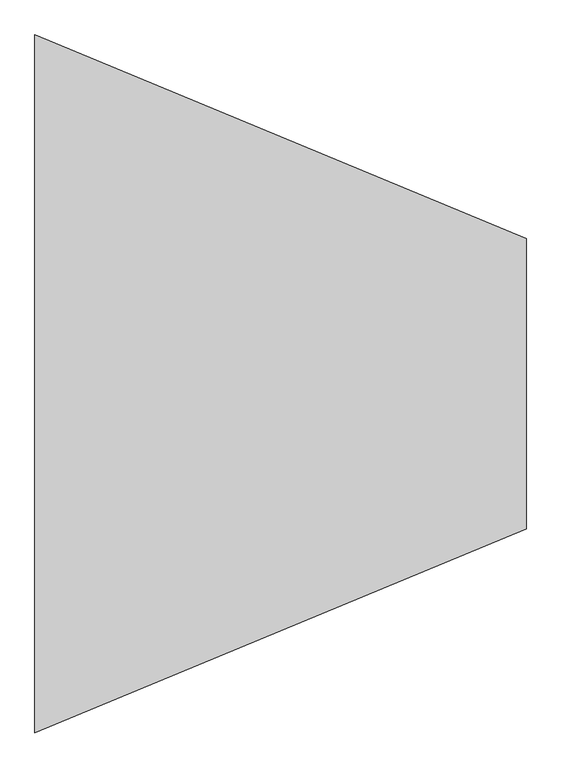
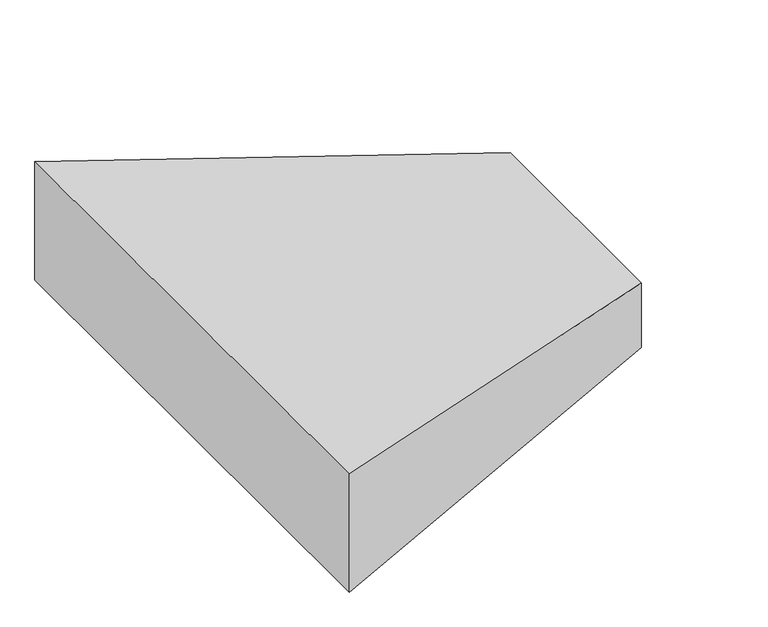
"""IFC4 building model written with IfcOpenShell, lengths in millimetres: duct fitting geometry, M_Transición rectangular - Ángulo : EXT_45 graus."""

import ifcopenshell
import ifcopenshell.guid

model = None  # the IFC model being written
_history = None  # IfcOwnerHistory: only IFC2X3 demands one
_inside = {}  # id of a spatial element -> (the spatial element, [elements in it])
_under = {}  # id of a project, library or spatial element -> (it, [spatial elements below it])
_declared = {}  # id of a project -> (the project, [libraries it declares])
_typed = {}  # id of a type object -> (the type object, [elements of that type])
_made_of = {}  # id of a material, layer set ... -> (it, [elements and type objects made of it])


def new_model(schema):
    """Start an empty IFC model of exactly this schema.

    Asked for "IFC4X3", IfcOpenShell would pick the latest addendum, in which some entities
    have other attributes; the version numbers below select the first issue.
    IFC2X3 requires an IfcOwnerHistory on every rooted entity: one is made here for all.
    """
    global model, _history
    if schema == "IFC4X3":
        model = ifcopenshell.file(schema_version=(4, 3, 0, 0))
    else:
        model = ifcopenshell.file(schema=schema)
    _inside.clear()
    _under.clear()
    _declared.clear()
    _typed.clear()
    _made_of.clear()
    _history = None
    if model.schema == "IFC2X3":
        org = make("IfcOrganization", Name="unknown")
        user = make(
            "IfcPersonAndOrganization",
            ThePerson=make("IfcPerson", FamilyName="unknown"),
            TheOrganization=org,
        )
        app = make(
            "IfcApplication",
            ApplicationDeveloper=org,
            Version="unknown",
            ApplicationFullName="unknown",
            ApplicationIdentifier="unknown",
        )
        _history = make(
            "IfcOwnerHistory",
            OwningUser=user,
            OwningApplication=app,
            ChangeAction="ADDED",
            CreationDate=0,
        )
    return model


def make(cls, **values):
    """One entity of the class cls with the attributes given. An attribute that is None is left unset."""
    return model.create_entity(
        cls, **{name: value for name, value in values.items() if value is not None}
    )


def rooted(cls, **values):
    """An entity with a GlobalId (a new one), such as an element, a storey or a relation."""
    return make(cls, GlobalId=ifcopenshell.guid.new(), OwnerHistory=_history, **values)


def si_unit(unit_type, name, prefix=None):
    """IfcSIUnit, for example si_unit("LENGTHUNIT", "METRE", prefix="MILLI")."""
    return make("IfcSIUnit", UnitType=unit_type, Prefix=prefix, Name=name)


def assignment(units):
    """IfcUnitAssignment: the units of a project."""
    return None if units is None else make("IfcUnitAssignment", Units=units)


def point(xyz):
    """IfcCartesianPoint."""
    return None if xyz is None else make("IfcCartesianPoint", Coordinates=xyz)


def direction(xyz):
    """IfcDirection."""
    return None if xyz is None else make("IfcDirection", DirectionRatios=xyz)


def frame(location, z_axis=None, x_axis=None):
    """IfcAxis2Placement3D, a coordinate frame: its origin and axes. An axis left out is left unset."""
    return make(
        "IfcAxis2Placement3D",
        Location=point(location),
        Axis=direction(z_axis),
        RefDirection=direction(x_axis),
    )


def origin():
    """The frame at (0, 0, 0) with its axes left unset."""
    return frame((0.0, 0.0, 0.0))


def place(relative_to, where):
    """IfcLocalPlacement: puts the frame where relative to a parent placement (None: the world)."""
    return make(
        "IfcLocalPlacement", PlacementRelTo=relative_to, RelativePlacement=where
    )


def context(
    kind, dimensions, precision=None, world=None, true_north=None, identifier=None
):
    """IfcGeometricRepresentationContext, for example the 3D "Model" context."""
    return make(
        "IfcGeometricRepresentationContext",
        ContextIdentifier=identifier,
        ContextType=kind,
        CoordinateSpaceDimension=dimensions,
        Precision=precision,
        WorldCoordinateSystem=world,
        TrueNorth=true_north,
    )


def project(units=None, contexts=None):
    """IfcProject with its units and contexts."""
    return rooted(
        "IfcProject",
        Name="project",
        RepresentationContexts=contexts,
        UnitsInContext=assignment(units),
    )


def spatial(cls, under=None, at=None, **own):
    """A site, building, storey or space (cls), placed at a placement, below another one or the project."""
    s = rooted(cls, ObjectPlacement=at, **own)
    if under is not None:
        _under.setdefault(under.id(), (under, []))[1].append(s)
    return s


def faces_of(points, faces, orient=None, outer=None):
    """IfcFace entities. A face is a list of loops; a loop is a list of indices into points, from 0.

    orient and outer hold one flag for each loop. By default every Orientation is true, the
    first loop of a face is its IfcFaceOuterBound and the others are IfcFaceBound.
    """
    made = []
    for i, loops in enumerate(faces):
        bounds = []
        for j, loop in enumerate(loops):
            is_outer = j == 0 if outer is None else outer[i][j]
            bounds.append(
                make(
                    "IfcFaceOuterBound" if is_outer else "IfcFaceBound",
                    Bound=make("IfcPolyLoop", Polygon=[points[k] for k in loop]),
                    Orientation=True if orient is None else orient[i][j],
                )
            )
        made.append(make("IfcFace", Bounds=bounds))
    return made


def faceted_brep(points, faces, orient=None, outer=None, voids=None):
    """IfcFacetedBrep: a solid bounded by flat faces; with voids (closed shells), ...WithVoids."""
    shared = [point(p) for p in points]
    hull = make("IfcClosedShell", CfsFaces=faces_of(shared, faces, orient, outer))
    if voids is None:
        return make("IfcFacetedBrep", Outer=hull)
    return make(
        "IfcFacetedBrepWithVoids",
        Outer=hull,
        Voids=[
            make(cls, CfsFaces=faces_of(shared, fs, o, b)) for cls, fs, o, b in voids
        ],
    )


def shape(context_of_items, identifier, shape_type, items):
    """IfcShapeRepresentation: the items that make up one representation, for example the "Body"."""
    return make(
        "IfcShapeRepresentation",
        ContextOfItems=context_of_items,
        RepresentationIdentifier=identifier,
        RepresentationType=shape_type,
        Items=items,
    )


def source(mapping_origin, context_of_items, identifier, shape_type, items):
    """IfcRepresentationMap: a shape defined once, which mapped items show again and again."""
    return make(
        "IfcRepresentationMap",
        MappingOrigin=mapping_origin,
        MappedRepresentation=shape(context_of_items, identifier, shape_type, items),
    )


def transform(
    local_origin,
    x_axis=None,
    y_axis=None,
    z_axis=None,
    scale=None,
    scale2=None,
    scale3=None,
    uniform=True,
):
    """IfcCartesianTransformationOperator3D, or its non-uniform kind. x_axis, y_axis, z_axis: its Axis1, 2, 3."""
    if uniform:
        return make(
            "IfcCartesianTransformationOperator3D",
            Axis1=direction(x_axis),
            Axis2=direction(y_axis),
            LocalOrigin=point(local_origin),
            Scale=scale,
            Axis3=direction(z_axis),
        )
    return make(
        "IfcCartesianTransformationOperator3DnonUniform",
        Axis1=direction(x_axis),
        Axis2=direction(y_axis),
        LocalOrigin=point(local_origin),
        Scale=scale,
        Axis3=direction(z_axis),
        Scale2=scale2,
        Scale3=scale3,
    )


def mapped(mapping_source, mapping_target):
    """IfcMappedItem: shows the shape of a source again, moved by a transform."""
    return make(
        "IfcMappedItem", MappingSource=mapping_source, MappingTarget=mapping_target
    )


def made_of(thing, what):
    """Note that an element or type object is made of a material, layer set ...; save() writes the relation."""
    if what is not None:
        _made_of.setdefault(what.id(), (what, []))[1].append(thing)
    return thing


def element(
    cls,
    number,
    at=None,
    inside=None,
    cuts=None,
    type_object=None,
    material=None,
    context=None,
    identifier="Body",
    shape_type=None,
    held_by="IfcProductDefinitionShape",
    body=None,
    shapes=None,
    **own,
):
    """One element of the class cls, such as IfcWall. Its Tag is "e" and its number.

    at: its placement. inside: the storey or other place that contains it. cuts: it is an
    opening in that element (IfcRelVoidsElement). A single representation is given by context,
    identifier, shape_type and body (its items); several are given by shapes. held_by: the class
    of the entity that holds the representations. save() writes the other relations.
    """
    e = rooted(cls, Tag="e%d" % number, ObjectPlacement=at, **own)
    if body is not None:
        shapes = [shape(context, identifier, shape_type, body)]
    if shapes is not None:
        e.Representation = make(held_by, Representations=shapes)
    if inside is not None:
        _inside.setdefault(inside.id(), (inside, []))[1].append(e)
    if cuts is not None:
        rooted(
            "IfcRelVoidsElement", RelatingBuildingElement=cuts, RelatedOpeningElement=e
        )
    if type_object is not None:
        _typed.setdefault(type_object.id(), (type_object, []))[1].append(e)
    return made_of(e, material)


def aggregate(whole, parts):
    """IfcRelAggregates: a whole, such as a stair, and the parts it consists of."""
    return rooted("IfcRelAggregates", RelatingObject=whole, RelatedObjects=parts)


def save(model, path):
    """Write the relations noted so far, then the file.

    IfcRelAggregates (storeys below a building ...), IfcRelContainedInSpatialStructure (elements
    in a storey), IfcRelDefinesByType, IfcRelAssociatesMaterial and IfcRelDeclares: one each for
    every whole, place, type object, material and project.
    """
    for whole, parts in _under.values():
        aggregate(whole, parts)
    for where, things in _inside.values():
        rooted(
            "IfcRelContainedInSpatialStructure",
            RelatedElements=things,
            RelatingStructure=where,
        )
    for kind, things in _typed.values():
        rooted("IfcRelDefinesByType", RelatedObjects=things, RelatingType=kind)
    for what, things in _made_of.values():
        rooted("IfcRelAssociatesMaterial", RelatedObjects=things, RelatingMaterial=what)
    for by, libraries in _declared.values():
        rooted("IfcRelDeclares", RelatingContext=by, RelatedDefinitions=libraries)
    model.write(path)


def duct_fitting_a85104f3(model_context):
    return source(origin(), model_context, "Body", "Brep", [
        faceted_brep([(844.9747465, -249.9831305, 75.0), (844.9747465, -249.9831305, -75.0), (844.9747465, 250.0168695, -75.0), (844.9747465, 250.0168695, 75.0), (0.0, -600.0, 137.5), (0.0, 600.0, 137.5), (0.0, 600.0, -137.5), (0.0, -600.0, -137.5)], [[[0, 1, 2, 3]], [[4, 5, 6, 7]], [[4, 7, 1, 0]], [[7, 6, 2, 1]], [[6, 5, 3, 2]], [[5, 4, 0, 3]]]),
    ])


if __name__ == "__main__":
    model = new_model("IFC4")
    model_context = context("Model", 3, world=origin())
    ifc_project = project(units=[si_unit("LENGTHUNIT", "METRE", prefix="MILLI")], contexts=[model_context])
    site = spatial("IfcSite", under=ifc_project)
    building = spatial("IfcBuilding", under=site)
    placement = place(None, origin())
    duct_fitting_shape = duct_fitting_a85104f3(model_context)
    element("IfcDuctFitting", 1, ObjectType="M_Transición rectangular - Ángulo : EXT_45 graus", at=placement, inside=building, context=model_context, shape_type="MappedRepresentation", body=[
        mapped(duct_fitting_shape, transform((0.0, 0.0, 0.0), x_axis=(1.0, 0.0, 0.0), y_axis=(0.0, 1.0, 0.0), z_axis=(0.0, 0.0, 1.0))),
    ])
    save(model, "model.ifc")
